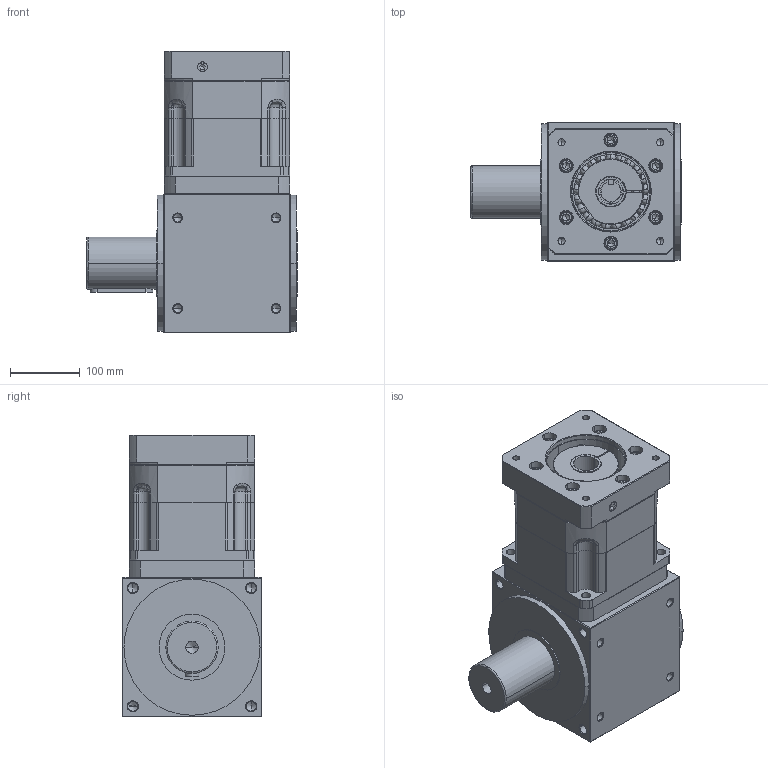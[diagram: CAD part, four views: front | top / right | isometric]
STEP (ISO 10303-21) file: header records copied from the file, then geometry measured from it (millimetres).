
FILE_DESCRIPTION (( 'STEP AP214' ), '1' );
FILE_NAME ('AAW200AS-L1-P 35-114.3-200-M12.STEP', '2021-04-24T05:21:41', ( 'Microsoft' ), ( 'Microsoft China' ), 'SwSTEP 2.0', 'SolidWorks 2016', '' );
FILE_SCHEMA (( 'AUTOMOTIVE_DESIGN' ));
Length unit declared in the file: millimetre
Products named in the file (28): AAW200AS-L2-2P--28-110-145-M8-SK; 幗渀粣創15.259X21.259; Hexagon socket head cap screws GB_GB_FASTENER_SCREWS_HSHCS M12X45-N; 俴陎粣15.259; 曹噤杶42-35; 蚐猾75X130X12; 薊粣ん囀傍え42; Deep groove ball bearings GB_Rolling bearings 61826 GB 276-94; Spring lock washers--Normal type GB_GB_FASTENER_WASHER_SW 12; 怀堤粣5B; Spring lock washers--Normal type GB_GB_FASTENER_WASHER_SW 10; Deep groove ball bearings GB_Rolling bearings 6215 GB 276-94; Hexagon socket head cap screws GB_GB_FASTENER_SCREWS_HSHCS M10X55-N; 齿圈Z108; Hex socket set screws with flat point GB_GB_FASTENER_SCREWS_HSFP M16X20-N; Circlips for shaft--Type B GB_GB_CONNECTING_PIECE_RINGS_CSB 70; AAW200AS-L1-P 35-114.3-200-M12; Plain parallel keys_GB_CONNECTING_PIECE_KEYS_CSK C8X22; Hexagon socket head cap screws GB_GB_FASTENER_SCREWS_HSHCS M12X35-N; 萇儂楊擘D114.3M12; 薊粣んD42K30; Circlips for hole--Type B GB_GB_CONNECTING_PIECE_RINGS_CHB 110; Circlips for holes--Type A GB_GB_CONNECTING_PIECE_RING_RRH 130; 怮栠謫5B; Deep groove ball bearings GB_Rolling bearings 6214 GB 276-94; 笢潔楊擘; 俴陎謫5B; 俴陎謫菜え15.4X28
Assembly tree (61 placements, depth 2):
  AAW200AS-L1-P 35-114.3-200-M12
    齿圈Z108
    Deep groove ball bearings GB_Rolling bearings 6215 GB 276-94
    怀堤粣5B
    Deep groove ball bearings GB_Rolling bearings 61826 GB 276-94
    蚐猾75X130X12
    俴陎粣15.259  x3
    幗渀粣創15.259X21.259  x4
    俴陎謫菜え15.4X28  x6
    俴陎謫5B  x3
    笢潔楊擘
    Deep groove ball bearings GB_Rolling bearings 6214 GB 276-94
    怮栠謫5B
    Circlips for holes--Type A GB_GB_CONNECTING_PIECE_RING_RRH 130
    Circlips for hole--Type B GB_GB_CONNECTING_PIECE_RINGS_CHB 110
    薊粣んD42K30
    萇儂楊擘D114.3M12
    Hexagon socket head cap screws GB_GB_FASTENER_SCREWS_HSHCS M12X35-N
    Plain parallel keys_GB_CONNECTING_PIECE_KEYS_CSK C8X22
    Circlips for shaft--Type B GB_GB_CONNECTING_PIECE_RINGS_CSB 70
    Hex socket set screws with flat point GB_GB_FASTENER_SCREWS_HSFP M16X20-N  x2
    Hexagon socket head cap screws GB_GB_FASTENER_SCREWS_HSHCS M10X55-N  x4
    Spring lock washers--Normal type GB_GB_FASTENER_WASHER_SW 10  x4
    Spring lock washers--Normal type GB_GB_FASTENER_WASHER_SW 12  x11
    薊粣ん囀傍え42
    曹噤杶42-35
    Hexagon socket head cap screws GB_GB_FASTENER_SCREWS_HSHCS M12X45-N  x6
    AAW200AS-L2-2P--28-110-145-M8-SK
Bounding box: 302 x 200 x 404 mm (x, y, z)
Volume: 13732491.6 mm3; surface area: 1246721.1 mm2
Topology: 63 solids, 64 shells, 2143 faces, 6461 edges, 4000 vertices
Faces by surface type: cylinder 695, plane 547, bspline 509, cone 299, sphere 93
Entity records: 96241 total; most frequent: CARTESIAN_POINT 35432, ORIENTED_EDGE 9786, DIRECTION 7511, EDGE_CURVE 4893, VERTEX_POINT 3194, AXIS2_PLACEMENT_3D 3146, CIRCLE 1868, EDGE_LOOP 1867
